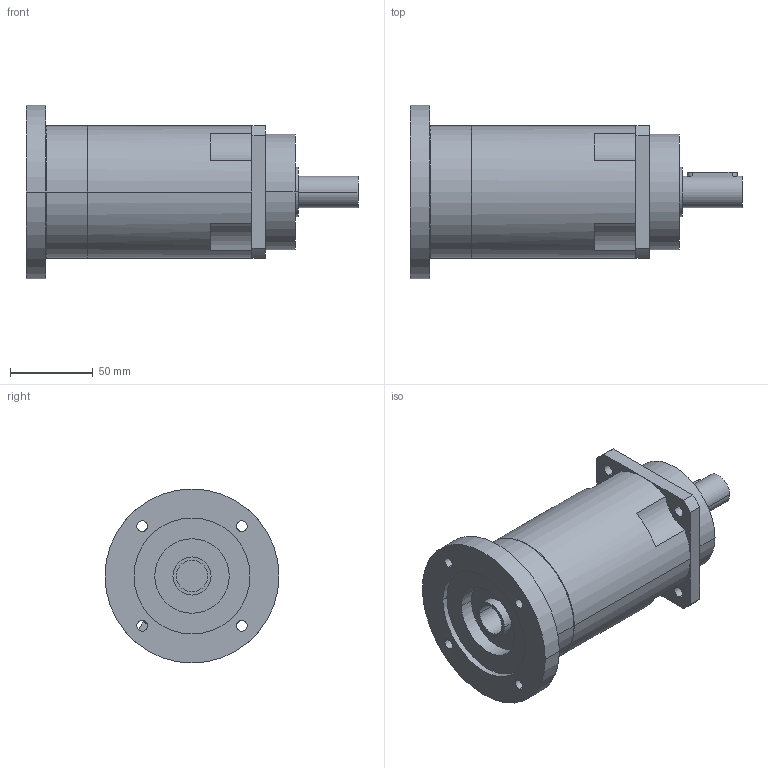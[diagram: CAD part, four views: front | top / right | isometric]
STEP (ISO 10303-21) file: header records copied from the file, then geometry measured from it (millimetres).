
FILE_DESCRIPTION(('CoCreate Modeling STEP Export'),'2;1');
FILE_NAME('GPR100_ig-48-64-80-100-120-144-180-216_19_B5_19_P04.stp','2014-08-26T11:56:44',(''),(''),'CoCreate Modeling STEP processor for AP214 (Solid Model)','CoCreate Modeling 16.00C 25-Feb-2009 (C) Parametric Technology GmbH','');
FILE_SCHEMA(('AUTOMOTIVE_DESIGN { 1 0 10303 214 1 1 1 1 }'));
Length unit declared in the file: millimetre
Products named in the file (2): GPR100_ig-48-64-80-100-120-144-180-216_19_B5_19_P04
Assembly tree (1 placements, depth 2):
  GPR100_ig-48-64-80-100-120-144-180-216_19_B5_19_P04
    GPR100_ig-48-64-80-100-120-144-180-216_19_B5_19_P04
Bounding box: 200.4 x 105 x 105 mm (x, y, z)
Surface area: 71353.4 mm2 (no closed solid volume)
Topology: 0 solids, 1 shells, 96 faces, 281 edges, 193 vertices
Faces by surface type: cylinder 56, plane 34, cone 6
Entity records: 2871 total; most frequent: CARTESIAN_POINT 596, ORIENTED_EDGE 546, DIRECTION 386, EDGE_CURVE 275, VERTEX_POINT 191, AXIS2_PLACEMENT_3D 149, EDGE_LOOP 123, FACE_OUTER_BOUND 96
